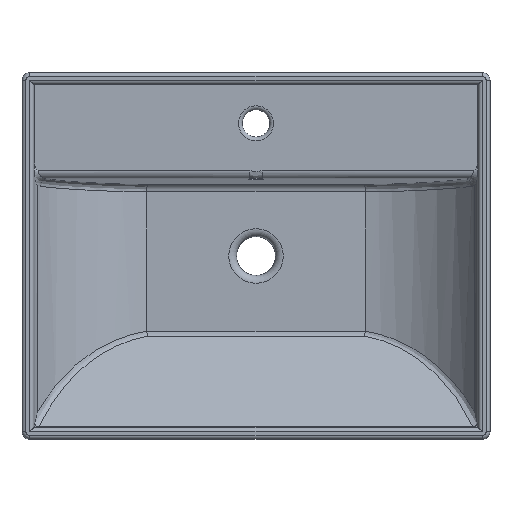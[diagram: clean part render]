
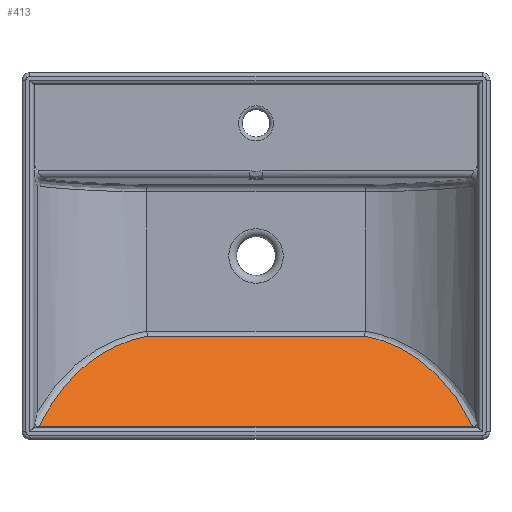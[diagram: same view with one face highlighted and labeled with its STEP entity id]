
A CAD part, front view. The second image highlights one B-rep face of the part: STEP entity #413.
In plain terms, the highlighted planar face has unit normal (0, -0.766, 0.643).
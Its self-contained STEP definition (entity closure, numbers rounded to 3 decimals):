
#413 = ADVANCED_FACE( '', ( #856 ), #857, .T. );
#856 = FACE_OUTER_BOUND( '', #4079, .T. );
#857 = PLANE( '', #4080 );
#4079 = EDGE_LOOP( '', ( #5317, #5318, #5319, #5320 ) );
#4080 = AXIS2_PLACEMENT_3D( '', #5321, #5322, #5323 );
#5317 = ORIENTED_EDGE( '', *, *, #5815, .F. );
#5318 = ORIENTED_EDGE( '', *, *, #5642, .T. );
#5319 = ORIENTED_EDGE( '', *, *, #5710, .T. );
#5320 = ORIENTED_EDGE( '', *, *, #5973, .T. );
#5321 = CARTESIAN_POINT( '', ( 0., 110., -100. ) );
#5322 = DIRECTION( '', ( 0., -0.766, 0.643 ) );
#5323 = DIRECTION( '', ( 0., -0.643, -0.766 ) );
#5642 = EDGE_CURVE( '', #6224, #6222, #6225, .T. );
#5710 = EDGE_CURVE( '', #6222, #6330, #6332, .T. );
#5815 = EDGE_CURVE( '', #6224, #6483, #6484, .T. );
#5973 = EDGE_CURVE( '', #6330, #6483, #6682, .T. );
#6222 = VERTEX_POINT( '', #7360 );
#6224 = VERTEX_POINT( '', #7393 );
#6225 = ELLIPSE( '', #7394, 295.588, 190. );
#6330 = VERTEX_POINT( '', #7678 );
#6332 = LINE( '', #7712, #7713 );
#6483 = VERTEX_POINT( '', #8226 );
#6484 = LINE( '', #8227, #8228 );
#6682 = ELLIPSE( '', #9130, 295.588, 190. );
#7360 = CARTESIAN_POINT( '', ( 139.25, 107.66, -102.788 ) );
#7393 = CARTESIAN_POINT( '', ( 277.801, 10., -219.175 ) );
#7394 = AXIS2_PLACEMENT_3D( '', #9388, #9389, #9390 );
#7678 = CARTESIAN_POINT( '', ( -139.25, 107.66, -102.788 ) );
#7712 = CARTESIAN_POINT( '', ( 0., 107.66, -102.788 ) );
#7713 = VECTOR( '', #9472, 1000. );
#8226 = CARTESIAN_POINT( '', ( -277.801, 10., -219.175 ) );
#8227 = CARTESIAN_POINT( '', ( 0., 10., -219.175 ) );
#8228 = VECTOR( '', #9600, 1000. );
#9130 = AXIS2_PLACEMENT_3D( '', #9763, #9764, #9765 );
#9388 = CARTESIAN_POINT( '', ( 110.555, -80.16, -326.624 ) );
#9389 = DIRECTION( '', ( 0., -0.766, 0.643 ) );
#9390 = DIRECTION( '', ( 0., 0.643, 0.766 ) );
#9472 = DIRECTION( '', ( -1., 0., 0. ) );
#9600 = DIRECTION( '', ( -1., 0., 0. ) );
#9763 = CARTESIAN_POINT( '', ( -110.555, -80.16, -326.624 ) );
#9764 = DIRECTION( '', ( 0., -0.766, 0.643 ) );
#9765 = DIRECTION( '', ( 0., 0.643, 0.766 ) );
